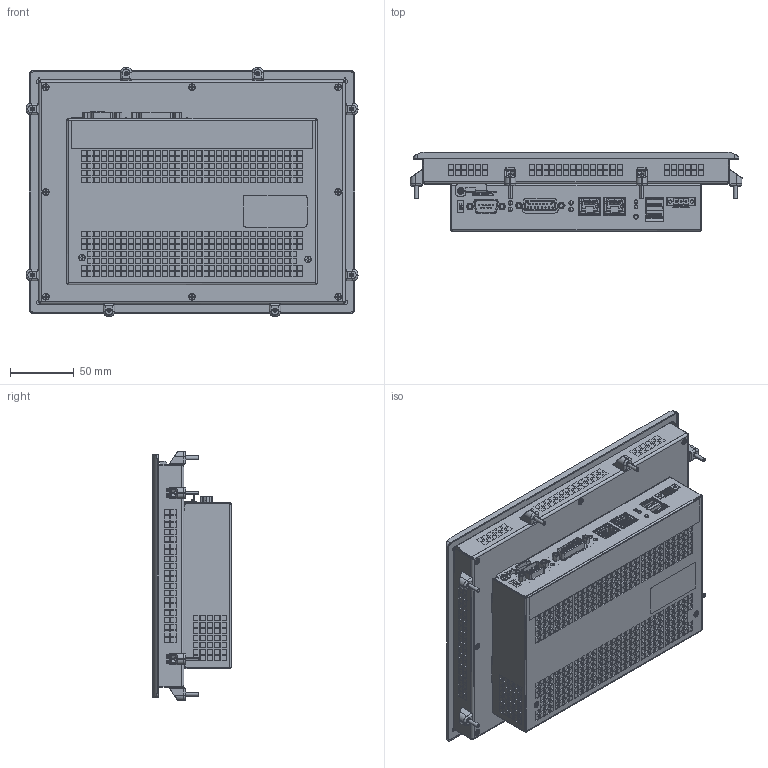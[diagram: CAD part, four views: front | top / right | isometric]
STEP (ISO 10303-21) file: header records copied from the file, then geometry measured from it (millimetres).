
FILE_DESCRIPTION (( 'STEP AP214' ), '1' );
FILE_NAME ('C6S14_84_RES.STEP', '2019-07-29T12:49:29', ( '' ), ( '' ), 'SwSTEP 2.0', 'SolidWorks 2018', '' );
FILE_SCHEMA (( 'AUTOMOTIVE_DESIGN' ));
Length unit declared in the file: millimetre
Products named in the file (5): C6S14_84_RES; C6S14_84_RES_UPS_1; C6S14_84_RES_ASM; DB15_Male_pin
Assembly tree (4 placements, depth 3):
  C6S14_84_RES
    C6S14_84_RES_ASM
    C6S14_84_RES
      C6S14_84_RES_UPS_1
      DB15_Male_pin
Bounding box: 260 x 61.79 x 195 mm (x, y, z)
Surface area: 340461.9 mm2
Topology: 1 solids, 5115 shells, 5393 faces, 29096 edges, 28799 vertices
Faces by surface type: plane 4176, cylinder 788, cone 199, bspline 168, torus 42, sphere 20
Entity records: 334912 total; most frequent: CARTESIAN_POINT 124195, DIRECTION 35170, ORIENTED_EDGE 29654, EDGE_CURVE 29036, VERTEX_POINT 28782, VECTOR 21124, LINE 21124, AXIS2_PLACEMENT_3D 7023
